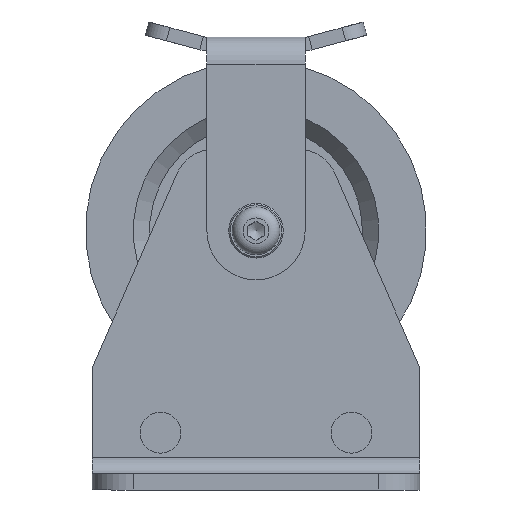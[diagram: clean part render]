
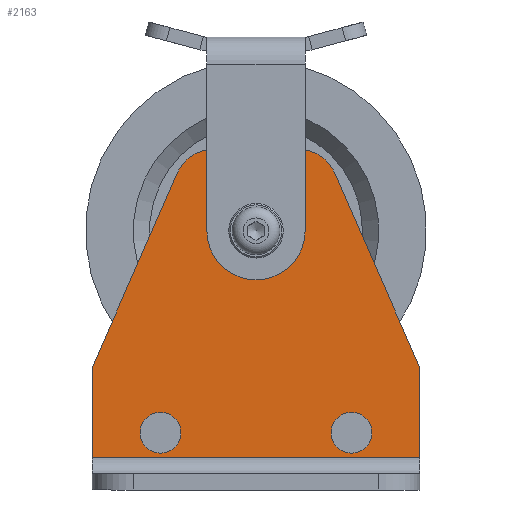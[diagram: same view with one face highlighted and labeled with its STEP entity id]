
A CAD part, front view. The second image highlights one B-rep face of the part: STEP entity #2163.
In plain terms, the highlighted planar face has unit normal (0, -1, 0) as drawn and (0, 0, 1) by its records, which use the part's own axes.
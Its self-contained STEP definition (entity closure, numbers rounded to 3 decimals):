
#135=FACE_BOUND('',#392,.T.);
#136=FACE_BOUND('',#393,.T.);
#137=FACE_BOUND('',#394,.T.);
#171=PLANE('',#2522);
#253=FACE_OUTER_BOUND('',#391,.T.);
#391=EDGE_LOOP('',(#1618,#1619,#1620,#1621,#1622,#1623,#1624,#1625));
#392=EDGE_LOOP('',(#1626));
#393=EDGE_LOOP('',(#1627));
#394=EDGE_LOOP('',(#1628));
#544=LINE('',#3618,#699);
#547=LINE('',#3624,#702);
#555=LINE('',#3658,#710);
#559=LINE('',#3667,#714);
#562=LINE('',#3674,#717);
#563=LINE('',#3676,#718);
#699=VECTOR('',#2871,10.);
#702=VECTOR('',#2876,10.);
#710=VECTOR('',#2910,10.);
#714=VECTOR('',#2920,10.);
#717=VECTOR('',#2929,10.);
#718=VECTOR('',#2932,10.);
#842=CIRCLE('',#2509,7.5);
#843=CIRCLE('',#2511,7.5);
#844=CIRCLE('',#2513,5.2);
#845=CIRCLE('',#2516,15.);
#846=CIRCLE('',#2519,15.);
#994=VERTEX_POINT('',#3609);
#995=VERTEX_POINT('',#3613);
#997=VERTEX_POINT('',#3622);
#1006=VERTEX_POINT('',#3644);
#1007=VERTEX_POINT('',#3648);
#1008=VERTEX_POINT('',#3652);
#1009=VERTEX_POINT('',#3656);
#1010=VERTEX_POINT('',#3657);
#1011=VERTEX_POINT('',#3662);
#1012=VERTEX_POINT('',#3666);
#1013=VERTEX_POINT('',#3670);
#1211=EDGE_CURVE('',#994,#995,#544,.T.);
#1214=EDGE_CURVE('',#997,#995,#547,.T.);
#1225=EDGE_CURVE('',#1006,#1006,#842,.T.);
#1227=EDGE_CURVE('',#1007,#1007,#843,.T.);
#1229=EDGE_CURVE('',#1008,#1008,#844,.T.);
#1230=EDGE_CURVE('',#1009,#1010,#555,.T.);
#1233=EDGE_CURVE('',#1010,#1011,#845,.T.);
#1235=EDGE_CURVE('',#1011,#1012,#559,.T.);
#1237=EDGE_CURVE('',#1012,#1013,#846,.T.);
#1239=EDGE_CURVE('',#1013,#997,#562,.T.);
#1240=EDGE_CURVE('',#994,#1009,#563,.T.);
#1618=ORIENTED_EDGE('',*,*,#1211,.T.);
#1619=ORIENTED_EDGE('',*,*,#1214,.F.);
#1620=ORIENTED_EDGE('',*,*,#1239,.F.);
#1621=ORIENTED_EDGE('',*,*,#1237,.F.);
#1622=ORIENTED_EDGE('',*,*,#1235,.F.);
#1623=ORIENTED_EDGE('',*,*,#1233,.F.);
#1624=ORIENTED_EDGE('',*,*,#1230,.F.);
#1625=ORIENTED_EDGE('',*,*,#1240,.F.);
#1626=ORIENTED_EDGE('',*,*,#1225,.T.);
#1627=ORIENTED_EDGE('',*,*,#1227,.T.);
#1628=ORIENTED_EDGE('',*,*,#1229,.T.);
#2163=ADVANCED_FACE('',(#253,#135,#136,#137),#171,.T.);
#2509=AXIS2_PLACEMENT_3D('',#3646,#2896,#2897);
#2511=AXIS2_PLACEMENT_3D('',#3650,#2901,#2902);
#2513=AXIS2_PLACEMENT_3D('',#3654,#2906,#2907);
#2516=AXIS2_PLACEMENT_3D('',#3663,#2915,#2916);
#2519=AXIS2_PLACEMENT_3D('',#3671,#2924,#2925);
#2522=AXIS2_PLACEMENT_3D('',#3677,#2933,#2934);
#2871=DIRECTION('',(1.,0.,0.));
#2876=DIRECTION('',(0.,-1.,0.));
#2896=DIRECTION('center_axis',(0.,0.,-1.));
#2897=DIRECTION('ref_axis',(-1.,0.,0.));
#2901=DIRECTION('center_axis',(0.,0.,-1.));
#2902=DIRECTION('ref_axis',(-1.,0.,0.));
#2906=DIRECTION('center_axis',(0.,0.,-1.));
#2907=DIRECTION('ref_axis',(-1.,0.,0.));
#2910=DIRECTION('',(0.401,0.916,0.));
#2915=DIRECTION('center_axis',(0.,0.,-1.));
#2916=DIRECTION('ref_axis',(0.,1.,0.));
#2920=DIRECTION('',(1.,0.,0.));
#2924=DIRECTION('center_axis',(0.,0.,-1.));
#2925=DIRECTION('ref_axis',(0.916,0.401,0.));
#2929=DIRECTION('',(0.401,-0.916,0.));
#2932=DIRECTION('',(0.,1.,0.));
#2933=DIRECTION('center_axis',(0.,0.,1.));
#2934=DIRECTION('ref_axis',(1.,0.,0.));
#3609=CARTESIAN_POINT('',(-60.,12.,6.));
#3613=CARTESIAN_POINT('',(60.,12.,6.));
#3618=CARTESIAN_POINT('',(30.,12.,6.));
#3622=CARTESIAN_POINT('',(60.,45.,6.));
#3624=CARTESIAN_POINT('',(60.,0.,6.));
#3644=CARTESIAN_POINT('',(42.5,21.,6.));
#3646=CARTESIAN_POINT('Origin',(35.,21.,6.));
#3648=CARTESIAN_POINT('',(-27.5,21.,6.));
#3650=CARTESIAN_POINT('Origin',(-35.,21.,6.));
#3652=CARTESIAN_POINT('',(5.2,95.,6.));
#3654=CARTESIAN_POINT('Origin',(0.,95.,6.));
#3656=CARTESIAN_POINT('',(-60.,45.,6.));
#3657=CARTESIAN_POINT('',(-28.932,116.012,6.));
#3658=CARTESIAN_POINT('',(-28.932,116.012,6.));
#3662=CARTESIAN_POINT('',(-15.19,125.,6.));
#3663=CARTESIAN_POINT('Origin',(-15.19,110.,6.));
#3666=CARTESIAN_POINT('',(15.19,125.,6.));
#3667=CARTESIAN_POINT('',(15.19,125.,6.));
#3670=CARTESIAN_POINT('',(28.932,116.012,6.));
#3671=CARTESIAN_POINT('Origin',(15.19,110.,6.));
#3674=CARTESIAN_POINT('',(60.,45.,6.));
#3676=CARTESIAN_POINT('',(-60.,45.,6.));
#3677=CARTESIAN_POINT('Origin',(0.,52.383,6.));
